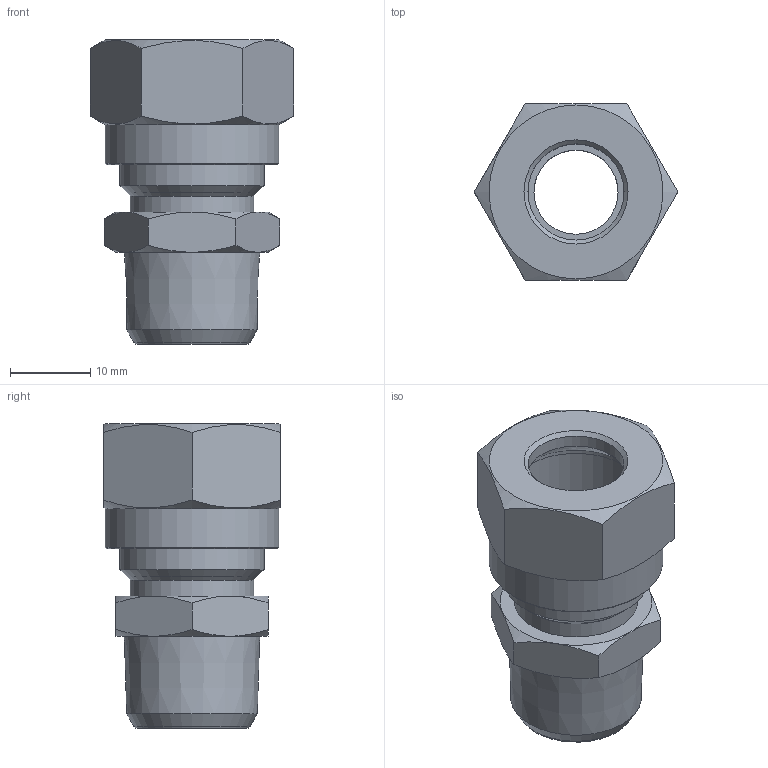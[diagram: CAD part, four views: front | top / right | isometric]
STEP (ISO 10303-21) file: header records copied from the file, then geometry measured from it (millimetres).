
FILE_DESCRIPTION(('Bauteilbeschreibung','HiCAD-Model','HiCAD-STEP-TRANSLATION','Bauteilbeschreibung'),'2;1');
FILE_NAME('B:/ABGLEICH/ZEICHNUNGEN/STEP FÜR INTERNET/STEP/201/94810_201_12_3-8.STP','2011-11-10T15:22:45+00:00',('Konstrukteur'),('Konstrukteur Firma GmbH'),' HiCAD neXt 2008, Step 3.1.1401.2J ','HiCAD neXt 2008','confidential');
FILE_SCHEMA(('AUTOMOTIVE_DESIGN { 1 2 10303 214 0 1 1 1 }'));
Length unit declared in the file: millimetre
Products named in the file (8): A4810_201_12_3_8; A6805; A68050; DIN 13_M18X1_5; A4810; A48100; DIN0130M18X105; R 3_8
Assembly tree (7 placements, depth 3):
  A4810_201_12_3_8
    A6805
    A68050
      DIN 13_M18X1_5
    A4810
    A48100
      DIN0130M18X105
      R 3_8
Bounding box: 25.4 x 22 x 38 mm (x, y, z)
Volume: 7182.8 mm3; surface area: 8551.8 mm2
Topology: 5 solids, 5 shells, 66 faces, 149 edges, 95 vertices
Faces by surface type: cone 29, plane 24, cylinder 13
Full cylindrical faces by diameter (mm): 10.5 x1, 12 x2, 15.4 x1, 16.16 x4, 16.893 x1, 18 x3, 21.7 x1
Entity records: 2297 total; most frequent: CARTESIAN_POINT 340, DIRECTION 282, ORIENTED_EDGE 212, AXIS2_PLACEMENT_3D 132, COLOUR_RGB 111, PRESENTATION_STYLE_ASSIGNMENT 111, EDGE_LOOP 108, CURVE_STYLE 106
